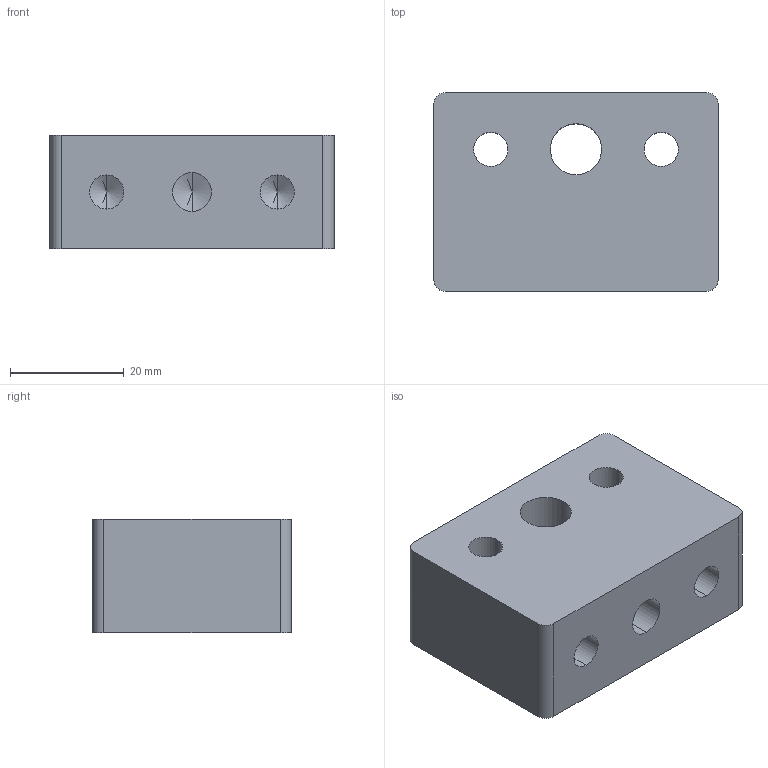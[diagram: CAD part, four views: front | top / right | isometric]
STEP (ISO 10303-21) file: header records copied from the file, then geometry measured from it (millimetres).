
FILE_DESCRIPTION (( 'STEP AP214' ), '1' );
FILE_NAME ('BD-08-03-00-ST-BR-00__Notum.STEP', '2018-03-29T11:13:21', ( '' ), ( '' ), 'SwSTEP 2.0', 'SolidWorks 2015', '' );
FILE_SCHEMA (( 'AUTOMOTIVE_DESIGN' ));
Length unit declared in the file: millimetre
Products named in the file (1): BD-08-03-00-ST-BR-00__Notum
Bounding box: 50 x 35 x 20 mm (x, y, z)
Volume: 31108.6 mm3; surface area: 8984.8 mm2
Topology: 1 solids, 1 shells, 546 faces, 1446 edges, 959 vertices
Faces by surface type: plane 339, bspline 185, cylinder 16, cone 6
Entity records: 32019 total; most frequent: CARTESIAN_POINT 13995, ORIENTED_EDGE 2880, DIRECTION 1826, EDGE_CURVE 1440, VECTOR 1038, LINE 1038, VERTEX_POINT 959, EDGE_LOOP 615
